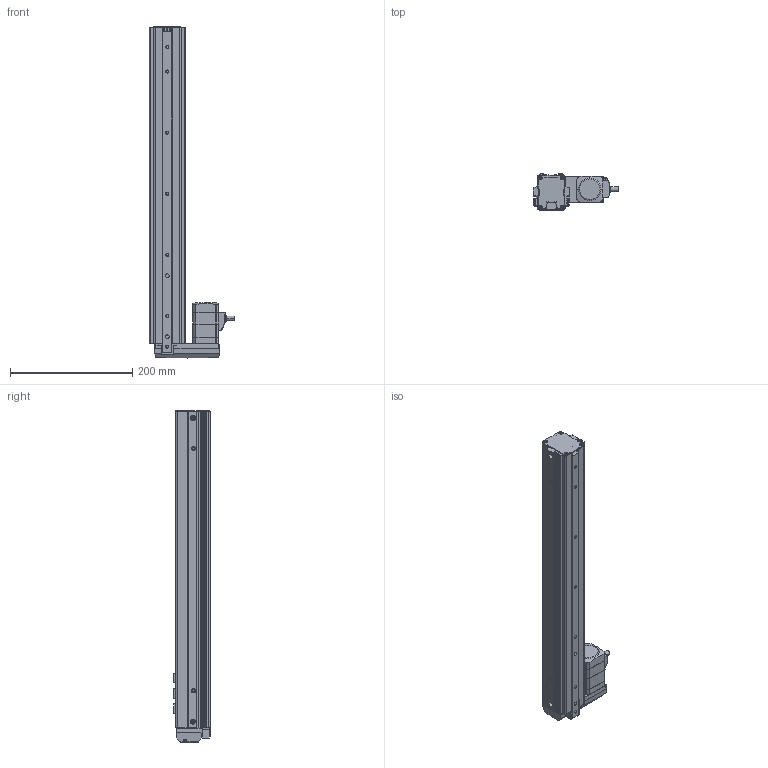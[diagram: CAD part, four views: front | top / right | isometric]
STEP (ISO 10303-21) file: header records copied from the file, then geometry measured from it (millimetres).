
FILE_DESCRIPTION (( 'STEP AP203' ), '1' );
FILE_NAME ('EASM4LYD040ARAK.step', '2013-10-10T07:33:23', ( 'om' ), ( 'Hewlett-Packard Company' ), 'SwSTEP 2.0', 'SolidWorks 2011', '' );
FILE_SCHEMA (( 'CONFIG_CONTROL_DESIGN' ));
Length unit declared in the file: millimetre
Products named in the file (4): EASM4LYD040ARAK; EASM4LYD040ARAK_Table; EASM4LYD040ARAK_BASE; EASM4LYD040ARAK_Motor
Assembly tree (3 placements, depth 2):
  EASM4LYD040ARAK
    EASM4LYD040ARAK_Motor
    EASM4LYD040ARAK_Table
    EASM4LYD040ARAK_BASE
Bounding box: 139.2 x 60 x 543.1 mm (x, y, z)
Volume: 928776.9 mm3; surface area: 318453 mm2
Topology: 3 solids, 13 shells, 986 faces, 2568 edges, 1669 vertices
Faces by surface type: plane 567, cylinder 349, cone 50, torus 16, bspline 4
Entity records: 30794 total; most frequent: CARTESIAN_POINT 5493, DIRECTION 5271, ORIENTED_EDGE 5104, EDGE_CURVE 2552, AXIS2_PLACEMENT_3D 1763, VECTOR 1745, LINE 1745, VERTEX_POINT 1669
